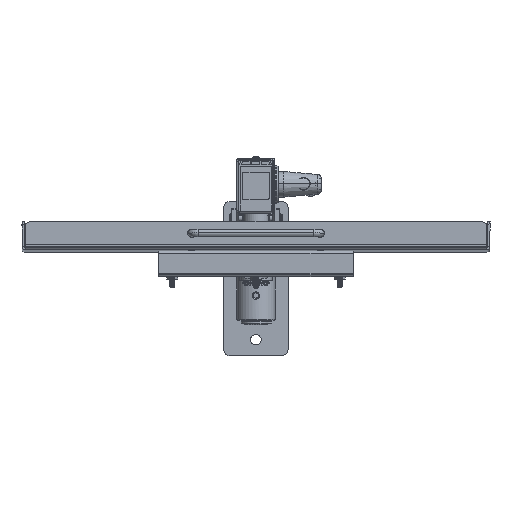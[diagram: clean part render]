
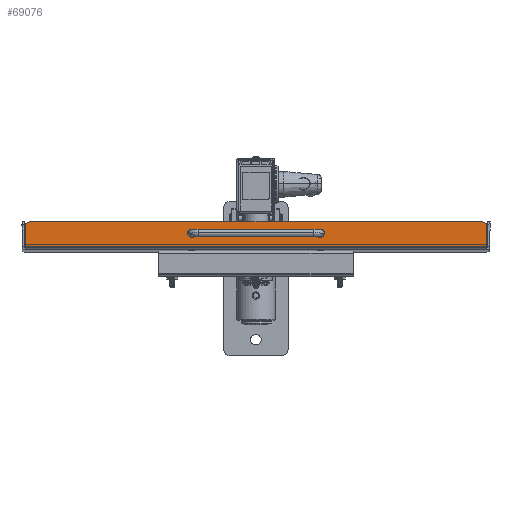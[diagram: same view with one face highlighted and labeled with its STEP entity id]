
A CAD part, top view. The second image highlights one B-rep face of the part: STEP entity #69076.
In plain terms, the highlighted planar face has unit normal (0, 0.006, 1) as drawn and (0, 0, 1) by its records, which use the part's own axes.
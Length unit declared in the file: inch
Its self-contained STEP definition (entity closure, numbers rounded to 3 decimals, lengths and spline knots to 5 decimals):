
#1003 = CARTESIAN_POINT ( 'NONE',  ( -8.75, 0.75, 6.09 ) ) ;
#1470 = VERTEX_POINT ( 'NONE', #56011 ) ;
#2933 = FACE_BOUND ( 'NONE', #16214, .T. ) ;
#2962 = DIRECTION ( 'NONE',  ( 0., -1., 0. ) ) ;
#3348 = DIRECTION ( 'NONE',  ( 0., 0., 1. ) ) ;
#3383 = ORIENTED_EDGE ( 'NONE', *, *, #26876, .F. ) ;
#4026 = VERTEX_POINT ( 'NONE', #77551 ) ;
#5208 = DIRECTION ( 'NONE',  ( 0., 0., -1. ) ) ;
#5912 = CARTESIAN_POINT ( 'NONE',  ( -2.3995, 0.55, 6.09 ) ) ;
#6213 = DIRECTION ( 'NONE',  ( -1., 0., 0. ) ) ;
#7263 = AXIS2_PLACEMENT_3D ( 'NONE', #10469, #3348, #28960 ) ;
#7307 = CARTESIAN_POINT ( 'NONE',  ( 8.96464, 0.87817, 6.09 ) ) ;
#7978 = CARTESIAN_POINT ( 'NONE',  ( -8.96464, 0.87817, 6.09 ) ) ;
#8449 = EDGE_CURVE ( 'NONE', #47682, #73843, #24887, .T. ) ;
#8859 = AXIS2_PLACEMENT_3D ( 'NONE', #49850, #69536, #38920 ) ;
#9524 = ORIENTED_EDGE ( 'NONE', *, *, #52961, .F. ) ;
#9529 = ORIENTED_EDGE ( 'NONE', *, *, #10991, .T. ) ;
#9631 = FACE_OUTER_BOUND ( 'NONE', #63172, .T. ) ;
#10469 = CARTESIAN_POINT ( 'NONE',  ( 8.75, 0.75, 6.09 ) ) ;
#10991 = EDGE_CURVE ( 'NONE', #67234, #31155, #33863, .T. ) ;
#11302 = DIRECTION ( 'NONE',  ( 1., 0., 0. ) ) ;
#12912 = CARTESIAN_POINT ( 'NONE',  ( -8.96464, 0.032, 6.09 ) ) ;
#13585 = EDGE_CURVE ( 'NONE', #1470, #47450, #72984, .T. ) ;
#16214 = EDGE_LOOP ( 'NONE', ( #9529, #63969 ) ) ;
#17800 = EDGE_CURVE ( 'NONE', #81482, #73843, #75053, .T. ) ;
#18089 = AXIS2_PLACEMENT_3D ( 'NONE', #62892, #70386, #6213 ) ;
#18684 = DIRECTION ( 'NONE',  ( 0., 0., -1. ) ) ;
#21241 = CARTESIAN_POINT ( 'NONE',  ( 8.75, 1., 6.09 ) ) ;
#21861 = LINE ( 'NONE', #35717, #33400 ) ;
#22167 = EDGE_CURVE ( 'NONE', #31155, #67234, #60266, .T. ) ;
#22245 = PLANE ( 'NONE',  #7263 ) ;
#23188 = CIRCLE ( 'NONE', #41957, 0.25 ) ;
#24887 = LINE ( 'NONE', #55099, #72406 ) ;
#26393 = CARTESIAN_POINT ( 'NONE',  ( -2.6005, 0.55, 6.09 ) ) ;
#26876 = EDGE_CURVE ( 'NONE', #55933, #4026, #23188, .T. ) ;
#28034 = EDGE_CURVE ( 'NONE', #4026, #44326, #78250, .T. ) ;
#28150 = DIRECTION ( 'NONE',  ( 0., 0., -1. ) ) ;
#28960 = DIRECTION ( 'NONE',  ( 0., -1., 0. ) ) ;
#31155 = VERTEX_POINT ( 'NONE', #26393 ) ;
#33265 = DIRECTION ( 'NONE',  ( 0., 0., -1. ) ) ;
#33400 = VECTOR ( 'NONE', #60068, 39.37008 ) ;
#33834 = DIRECTION ( 'NONE',  ( 1., 0., 0. ) ) ;
#33863 = CIRCLE ( 'NONE', #82111, 0.1005 ) ;
#35717 = CARTESIAN_POINT ( 'NONE',  ( -8.96464, 0.75, 6.09 ) ) ;
#37116 = CARTESIAN_POINT ( 'NONE',  ( 2.5, 0.55, 6.09 ) ) ;
#38446 = ORIENTED_EDGE ( 'NONE', *, *, #8449, .F. ) ;
#38920 = DIRECTION ( 'NONE',  ( 0., -1., 0. ) ) ;
#41048 = ORIENTED_EDGE ( 'NONE', *, *, #57803, .T. ) ;
#41957 = AXIS2_PLACEMENT_3D ( 'NONE', #1003, #28150, #2962 ) ;
#44326 = VERTEX_POINT ( 'NONE', #82930 ) ;
#47450 = VERTEX_POINT ( 'NONE', #57271 ) ;
#47616 = ORIENTED_EDGE ( 'NONE', *, *, #17800, .T. ) ;
#47682 = VERTEX_POINT ( 'NONE', #7307 ) ;
#48165 = AXIS2_PLACEMENT_3D ( 'NONE', #63577, #18684, #49764 ) ;
#49764 = DIRECTION ( 'NONE',  ( -1., 0., 0. ) ) ;
#49850 = CARTESIAN_POINT ( 'NONE',  ( 8.75, 0.75, 6.09 ) ) ;
#50468 = EDGE_LOOP ( 'NONE', ( #71091, #41048 ) ) ;
#50859 = CARTESIAN_POINT ( 'NONE',  ( 8.96464, 0.032, 6.09 ) ) ;
#52474 = ORIENTED_EDGE ( 'NONE', *, *, #28034, .F. ) ;
#52721 = VECTOR ( 'NONE', #33834, 39.37008 ) ;
#52961 = EDGE_CURVE ( 'NONE', #44326, #47682, #74470, .T. ) ;
#55099 = CARTESIAN_POINT ( 'NONE',  ( 8.96464, 0.75, 6.09 ) ) ;
#55933 = VERTEX_POINT ( 'NONE', #7978 ) ;
#56011 = CARTESIAN_POINT ( 'NONE',  ( 2.6005, 0.55, 6.09 ) ) ;
#56630 = CARTESIAN_POINT ( 'NONE',  ( 8.75, 0.032, 6.09 ) ) ;
#57271 = CARTESIAN_POINT ( 'NONE',  ( 2.3995, 0.55, 6.09 ) ) ;
#57803 = EDGE_CURVE ( 'NONE', #47450, #1470, #61044, .T. ) ;
#58861 = DIRECTION ( 'NONE',  ( -1., 0., 0. ) ) ;
#60068 = DIRECTION ( 'NONE',  ( 0., -1., 0. ) ) ;
#60266 = CIRCLE ( 'NONE', #48165, 0.1005 ) ;
#61044 = CIRCLE ( 'NONE', #62340, 0.1005 ) ;
#62340 = AXIS2_PLACEMENT_3D ( 'NONE', #37116, #5208, #63498 ) ;
#62892 = CARTESIAN_POINT ( 'NONE',  ( 2.5, 0.55, 6.09 ) ) ;
#63172 = EDGE_LOOP ( 'NONE', ( #38446, #9524, #52474, #3383, #78581, #47616 ) ) ;
#63498 = DIRECTION ( 'NONE',  ( -1., 0., 0. ) ) ;
#63577 = CARTESIAN_POINT ( 'NONE',  ( -2.5, 0.55, 6.09 ) ) ;
#63969 = ORIENTED_EDGE ( 'NONE', *, *, #22167, .T. ) ;
#67234 = VERTEX_POINT ( 'NONE', #5912 ) ;
#69076 = ADVANCED_FACE ( 'NONE', ( #2933, #9631, #72550 ), #22245, .T. ) ;
#69536 = DIRECTION ( 'NONE',  ( 0., 0., -1. ) ) ;
#70386 = DIRECTION ( 'NONE',  ( 0., 0., -1. ) ) ;
#71091 = ORIENTED_EDGE ( 'NONE', *, *, #13585, .T. ) ;
#72406 = VECTOR ( 'NONE', #80650, 39.37008 ) ;
#72550 = FACE_BOUND ( 'NONE', #50468, .T. ) ;
#72984 = CIRCLE ( 'NONE', #18089, 0.1005 ) ;
#73843 = VERTEX_POINT ( 'NONE', #50859 ) ;
#74470 = CIRCLE ( 'NONE', #8859, 0.25 ) ;
#75053 = LINE ( 'NONE', #56630, #78594 ) ;
#77267 = CARTESIAN_POINT ( 'NONE',  ( -2.5, 0.55, 6.09 ) ) ;
#77551 = CARTESIAN_POINT ( 'NONE',  ( -8.75, 1., 6.09 ) ) ;
#78250 = LINE ( 'NONE', #21241, #52721 ) ;
#78581 = ORIENTED_EDGE ( 'NONE', *, *, #80264, .T. ) ;
#78594 = VECTOR ( 'NONE', #11302, 39.37008 ) ;
#80264 = EDGE_CURVE ( 'NONE', #55933, #81482, #21861, .T. ) ;
#80650 = DIRECTION ( 'NONE',  ( 0., -1., 0. ) ) ;
#81482 = VERTEX_POINT ( 'NONE', #12912 ) ;
#82111 = AXIS2_PLACEMENT_3D ( 'NONE', #77267, #33265, #58861 ) ;
#82930 = CARTESIAN_POINT ( 'NONE',  ( 8.75, 1., 6.09 ) ) ;
